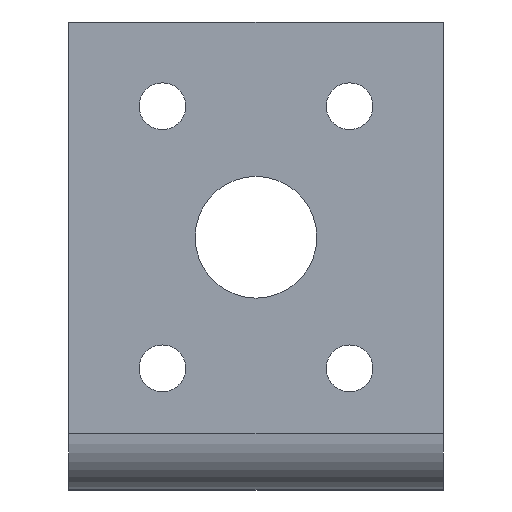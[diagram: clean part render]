
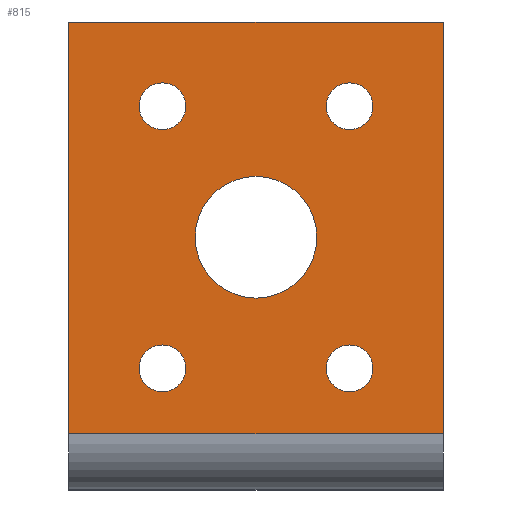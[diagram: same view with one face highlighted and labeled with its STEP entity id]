
A CAD part, front view. The second image highlights one B-rep face of the part: STEP entity #815.
In plain terms, the highlighted planar face has unit normal (0, -1, 0).
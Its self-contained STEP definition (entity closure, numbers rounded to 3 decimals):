
#2 = ORIENTED_EDGE ( 'NONE', *, *, #1360, .F. ) ;
#38 = CIRCLE ( 'NONE', #112, 2.5 ) ;
#49 = AXIS2_PLACEMENT_3D ( 'NONE', #1230, #260, #1369 ) ;
#70 = CARTESIAN_POINT ( 'NONE',  ( 0., -77.5, -4.5 ) ) ;
#84 = VERTEX_POINT ( 'NONE', #1320 ) ;
#96 = CIRCLE ( 'NONE', #1319, 2.5 ) ;
#109 = EDGE_LOOP ( 'NONE', ( #1303, #601, #599, #1079 ) ) ;
#112 = AXIS2_PLACEMENT_3D ( 'NONE', #1159, #1032, #408 ) ;
#113 = DIRECTION ( 'NONE',  ( 0., 0., -1. ) ) ;
#141 = ORIENTED_EDGE ( 'NONE', *, *, #513, .T. ) ;
#160 = CARTESIAN_POINT ( 'NONE',  ( 20., -77.5, -19. ) ) ;
#173 = VECTOR ( 'NONE', #113, 1000. ) ;
#180 = EDGE_CURVE ( 'NONE', #535, #481, #216, .T. ) ;
#214 = CARTESIAN_POINT ( 'NONE',  ( -10., -77.5, 16. ) ) ;
#216 = CIRCLE ( 'NONE', #579, 2.5 ) ;
#234 = FACE_BOUND ( 'NONE', #1434, .T. ) ;
#260 = DIRECTION ( 'NONE',  ( 0., -1., 0. ) ) ;
#262 = EDGE_CURVE ( 'NONE', #1426, #825, #96, .T. ) ;
#276 = EDGE_CURVE ( 'NONE', #361, #1406, #791, .T. ) ;
#279 = DIRECTION ( 'NONE',  ( -1., 0., 0. ) ) ;
#282 = VERTEX_POINT ( 'NONE', #614 ) ;
#290 = DIRECTION ( 'NONE',  ( 0., 1., 0. ) ) ;
#302 = EDGE_CURVE ( 'NONE', #1386, #1552, #550, .T. ) ;
#339 = AXIS2_PLACEMENT_3D ( 'NONE', #896, #769, #1405 ) ;
#361 = VERTEX_POINT ( 'NONE', #1135 ) ;
#383 = ORIENTED_EDGE ( 'NONE', *, *, #845, .T. ) ;
#396 = DIRECTION ( 'NONE',  ( 0., 0., 1. ) ) ;
#408 = DIRECTION ( 'NONE',  ( 0., 0., 1. ) ) ;
#410 = CARTESIAN_POINT ( 'NONE',  ( 10., -77.5, 16. ) ) ;
#442 = VERTEX_POINT ( 'NONE', #647 ) ;
#447 = EDGE_CURVE ( 'NONE', #442, #282, #1110, .T. ) ;
#451 = CIRCLE ( 'NONE', #897, 6.5 ) ;
#463 = DIRECTION ( 'NONE',  ( 0., 1., 0. ) ) ;
#471 = AXIS2_PLACEMENT_3D ( 'NONE', #1305, #1311, #1411 ) ;
#481 = VERTEX_POINT ( 'NONE', #671 ) ;
#488 = CARTESIAN_POINT ( 'NONE',  ( 20., -77.5, 0. ) ) ;
#492 = CIRCLE ( 'NONE', #1112, 2.5 ) ;
#493 = CARTESIAN_POINT ( 'NONE',  ( -10., -77.5, -9.5 ) ) ;
#511 = CIRCLE ( 'NONE', #49, 6.5 ) ;
#513 = EDGE_CURVE ( 'NONE', #825, #1426, #38, .T. ) ;
#535 = VERTEX_POINT ( 'NONE', #1285 ) ;
#538 = DIRECTION ( 'NONE',  ( 0., 1., 0. ) ) ;
#550 = LINE ( 'NONE', #488, #173 ) ;
#559 = ORIENTED_EDGE ( 'NONE', *, *, #1056, .F. ) ;
#579 = AXIS2_PLACEMENT_3D ( 'NONE', #214, #605, #1211 ) ;
#590 = EDGE_CURVE ( 'NONE', #1552, #1406, #1212, .T. ) ;
#599 = ORIENTED_EDGE ( 'NONE', *, *, #590, .F. ) ;
#601 = ORIENTED_EDGE ( 'NONE', *, *, #276, .T. ) ;
#605 = DIRECTION ( 'NONE',  ( 0., 1., 0. ) ) ;
#614 = CARTESIAN_POINT ( 'NONE',  ( 10., -77.5, -14.5 ) ) ;
#616 = EDGE_LOOP ( 'NONE', ( #1304, #383 ) ) ;
#646 = FACE_BOUND ( 'NONE', #1527, .T. ) ;
#647 = CARTESIAN_POINT ( 'NONE',  ( 10., -77.5, -9.5 ) ) ;
#651 = CARTESIAN_POINT ( 'NONE',  ( 10., -77.5, -12. ) ) ;
#656 = CARTESIAN_POINT ( 'NONE',  ( 20., -77.5, 25. ) ) ;
#660 = DIRECTION ( 'NONE',  ( 0., 0., 1. ) ) ;
#668 = CARTESIAN_POINT ( 'NONE',  ( 0., -77.5, 2. ) ) ;
#670 = EDGE_LOOP ( 'NONE', ( #2, #559 ) ) ;
#671 = CARTESIAN_POINT ( 'NONE',  ( -10., -77.5, 18.5 ) ) ;
#680 = EDGE_CURVE ( 'NONE', #481, #535, #1092, .T. ) ;
#690 = VERTEX_POINT ( 'NONE', #1447 ) ;
#696 = CARTESIAN_POINT ( 'NONE',  ( -10., -77.5, 16. ) ) ;
#728 = CARTESIAN_POINT ( 'NONE',  ( -20., -77.5, 0. ) ) ;
#769 = DIRECTION ( 'NONE',  ( 0., 1., 0. ) ) ;
#790 = LINE ( 'NONE', #1315, #1109 ) ;
#791 = LINE ( 'NONE', #728, #1620 ) ;
#803 = ORIENTED_EDGE ( 'NONE', *, *, #262, .T. ) ;
#815 = ADVANCED_FACE ( 'NONE', ( #856, #1519, #234, #1160, #646, #840 ), #1174, .T. ) ;
#825 = VERTEX_POINT ( 'NONE', #493 ) ;
#840 = FACE_BOUND ( 'NONE', #616, .T. ) ;
#845 = EDGE_CURVE ( 'NONE', #282, #442, #492, .T. ) ;
#856 = FACE_BOUND ( 'NONE', #670, .T. ) ;
#896 = CARTESIAN_POINT ( 'NONE',  ( 10., -77.5, 16. ) ) ;
#897 = AXIS2_PLACEMENT_3D ( 'NONE', #668, #1152, #1145 ) ;
#899 = VERTEX_POINT ( 'NONE', #1158 ) ;
#916 = AXIS2_PLACEMENT_3D ( 'NONE', #696, #1577, #1059 ) ;
#970 = VERTEX_POINT ( 'NONE', #70 ) ;
#1023 = CARTESIAN_POINT ( 'NONE',  ( 0., -77.5, -19. ) ) ;
#1032 = DIRECTION ( 'NONE',  ( 0., 1., 0. ) ) ;
#1033 = AXIS2_PLACEMENT_3D ( 'NONE', #410, #538, #660 ) ;
#1045 = EDGE_LOOP ( 'NONE', ( #1556, #1221 ) ) ;
#1056 = EDGE_CURVE ( 'NONE', #970, #899, #511, .T. ) ;
#1059 = DIRECTION ( 'NONE',  ( 0., 0., 1. ) ) ;
#1065 = CIRCLE ( 'NONE', #1033, 2.5 ) ;
#1079 = ORIENTED_EDGE ( 'NONE', *, *, #302, .F. ) ;
#1080 = AXIS2_PLACEMENT_3D ( 'NONE', #651, #1522, #396 ) ;
#1092 = CIRCLE ( 'NONE', #916, 2.5 ) ;
#1099 = ORIENTED_EDGE ( 'NONE', *, *, #680, .T. ) ;
#1109 = VECTOR ( 'NONE', #1462, 1000. ) ;
#1110 = CIRCLE ( 'NONE', #1080, 2.5 ) ;
#1112 = AXIS2_PLACEMENT_3D ( 'NONE', #1523, #290, #1409 ) ;
#1135 = CARTESIAN_POINT ( 'NONE',  ( -20., -77.5, 25. ) ) ;
#1145 = DIRECTION ( 'NONE',  ( 0., 0., -1. ) ) ;
#1152 = DIRECTION ( 'NONE',  ( 0., -1., 0. ) ) ;
#1158 = CARTESIAN_POINT ( 'NONE',  ( 0., -77.5, 8.5 ) ) ;
#1159 = CARTESIAN_POINT ( 'NONE',  ( -10., -77.5, -12. ) ) ;
#1160 = FACE_BOUND ( 'NONE', #1045, .T. ) ;
#1174 = PLANE ( 'NONE',  #471 ) ;
#1180 = CIRCLE ( 'NONE', #339, 2.5 ) ;
#1211 = DIRECTION ( 'NONE',  ( 0., 0., 1. ) ) ;
#1212 = LINE ( 'NONE', #1023, #1604 ) ;
#1216 = DIRECTION ( 'NONE',  ( 0., 0., -1. ) ) ;
#1221 = ORIENTED_EDGE ( 'NONE', *, *, #1536, .T. ) ;
#1222 = ORIENTED_EDGE ( 'NONE', *, *, #180, .T. ) ;
#1230 = CARTESIAN_POINT ( 'NONE',  ( 0., -77.5, 2. ) ) ;
#1266 = CARTESIAN_POINT ( 'NONE',  ( -20., -77.5, -19. ) ) ;
#1275 = CARTESIAN_POINT ( 'NONE',  ( -10., -77.5, -14.5 ) ) ;
#1285 = CARTESIAN_POINT ( 'NONE',  ( -10., -77.5, 13.5 ) ) ;
#1303 = ORIENTED_EDGE ( 'NONE', *, *, #1441, .T. ) ;
#1304 = ORIENTED_EDGE ( 'NONE', *, *, #447, .T. ) ;
#1305 = CARTESIAN_POINT ( 'NONE',  ( -20., -77.5, -25. ) ) ;
#1311 = DIRECTION ( 'NONE',  ( 0., -1., 0. ) ) ;
#1315 = CARTESIAN_POINT ( 'NONE',  ( -20., -77.5, 25. ) ) ;
#1319 = AXIS2_PLACEMENT_3D ( 'NONE', #1332, #463, #1589 ) ;
#1320 = CARTESIAN_POINT ( 'NONE',  ( 10., -77.5, 18.5 ) ) ;
#1332 = CARTESIAN_POINT ( 'NONE',  ( -10., -77.5, -12. ) ) ;
#1360 = EDGE_CURVE ( 'NONE', #899, #970, #451, .T. ) ;
#1369 = DIRECTION ( 'NONE',  ( 0., 0., -1. ) ) ;
#1386 = VERTEX_POINT ( 'NONE', #656 ) ;
#1405 = DIRECTION ( 'NONE',  ( 0., 0., 1. ) ) ;
#1406 = VERTEX_POINT ( 'NONE', #1266 ) ;
#1409 = DIRECTION ( 'NONE',  ( 0., 0., 1. ) ) ;
#1411 = DIRECTION ( 'NONE',  ( 0., 0., -1. ) ) ;
#1426 = VERTEX_POINT ( 'NONE', #1275 ) ;
#1434 = EDGE_LOOP ( 'NONE', ( #1099, #1222 ) ) ;
#1441 = EDGE_CURVE ( 'NONE', #1386, #361, #790, .T. ) ;
#1447 = CARTESIAN_POINT ( 'NONE',  ( 10., -77.5, 13.5 ) ) ;
#1462 = DIRECTION ( 'NONE',  ( -1., 0., 0. ) ) ;
#1519 = FACE_OUTER_BOUND ( 'NONE', #109, .T. ) ;
#1522 = DIRECTION ( 'NONE',  ( 0., 1., 0. ) ) ;
#1523 = CARTESIAN_POINT ( 'NONE',  ( 10., -77.5, -12. ) ) ;
#1527 = EDGE_LOOP ( 'NONE', ( #141, #803 ) ) ;
#1536 = EDGE_CURVE ( 'NONE', #690, #84, #1180, .T. ) ;
#1552 = VERTEX_POINT ( 'NONE', #160 ) ;
#1556 = ORIENTED_EDGE ( 'NONE', *, *, #1582, .T. ) ;
#1577 = DIRECTION ( 'NONE',  ( 0., 1., 0. ) ) ;
#1582 = EDGE_CURVE ( 'NONE', #84, #690, #1065, .T. ) ;
#1589 = DIRECTION ( 'NONE',  ( 0., 0., 1. ) ) ;
#1604 = VECTOR ( 'NONE', #279, 1000. ) ;
#1620 = VECTOR ( 'NONE', #1216, 1000. ) ;
